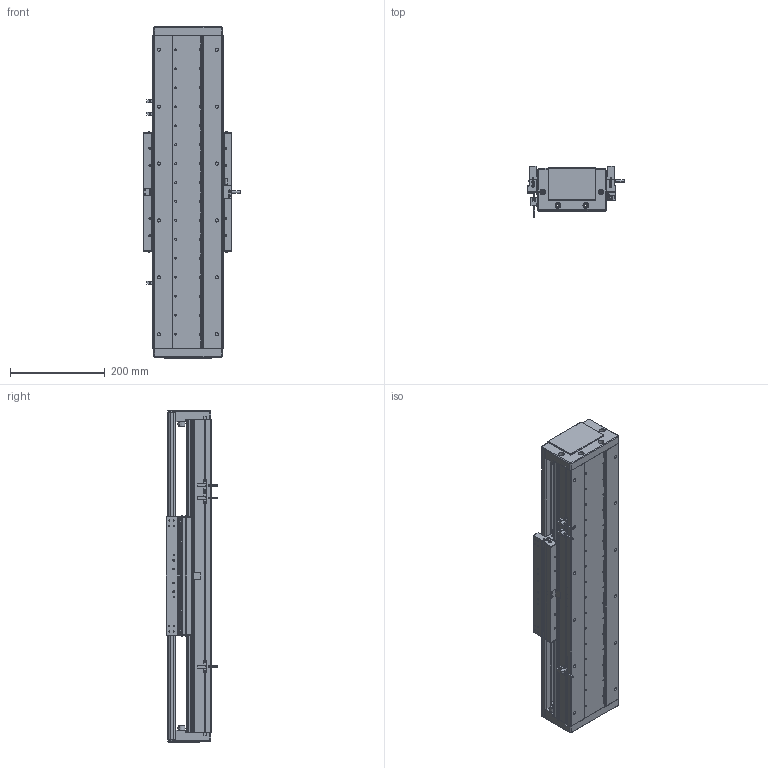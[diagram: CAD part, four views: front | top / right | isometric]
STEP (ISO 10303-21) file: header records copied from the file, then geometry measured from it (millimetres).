
FILE_DESCRIPTION (( 'STEP AP203' ), '1' );
FILE_NAME ('DA-C145-C3-T360-C010-0.2 眻盄萇儂.STEP', '2025-08-14T01:15:37', ( '' ), ( '' ), 'SwSTEP 2.0', 'SolidWorks 2019', '' );
FILE_SCHEMA (( 'CONFIG_CONTROL_DESIGN' ));
Length unit declared in the file: millimetre
Products named in the file (29): 复件 DA95-HK-GT-00 滑块钢轨^CU145-W-00 一体化滑动台板; TAY01-M8; 葩璃 DA95-HXJ-00 遣喳砎蝶^DA-C145-C3-T-C010-0.2; 复件 DA145-C3-YB-A-00 压板A^CU145-W 滚珠滑台; 复件 半圆头内六角螺钉 M3×6^CU145-W 滚珠滑台; 葩璃 PM-T45^DA-C145-C3-T-C010-0.2; 葩璃 XD-U-02L 棠掑喜^DA-C145-C3-T-C010-0.2; CU145-W 幗紩賑怢; 复件 纯铜油杯 6x6mm^CU145-W 滚珠滑台; IU-CU145-L 菁釱絳寢; 复件 内六角平端紧定螺钉 GB.T77-2000 M5×10^CU145-W 滚珠滑台; 葩璃 CKMA01-W060-TRL^DA-C145-C3-T-C010-0.2; 葩璃 DA145-T-003-00 裔啣^DA-C145-C3-T-C010-0.2; 葩璃 DA145-C3-DP-B-00 菜えB^CU145-W 幗紩賑怢; 葩璃 DMA-010-0.2 黍杅芛^DA-C145-C3-T-C010-0.2; 复件 DA145-GYP-00 光电感应片^DA-C145-C3-T-C010-0.2; 66245-CU145-HT-W-00 賑雄怢啣(3D芞祧)(00); 葩璃 鞠褒情蹟譫 M3^DA-C145-C3-T-C010-0.2; 葩璃 DA145-C3-DP-A-00 菜えA^CU145-W 幗紩賑怢; IU-CU145-L-00 菁釱(L660); CU145-W-00 珨极趙賑雄怢啣; 葩璃 DA145-DG-H-N-00 傷裔^DA-C145-C3-T-C010-0.2; 葩璃 DA95-GT-T-00^IU-CU145-L 菁釱絳寢; 复件 DA145-C3-YB-B-00 压板B^CU145-W 滚珠滑台; 葩璃 CKM03-W060-C1C2-TP-0.2^DA-C145-C3-T-C010-0.2; 复件 DA95-MFP-01 密封片^CU145-W 滚珠滑台; 复件 DA95-DB-00  挡板^CU145-W 滚珠滑台; DA-C145-C3-T360-C010-0.2 眻盄萇儂; 复件 DA145-C3-DK-00 挡块^CU145-W 滚珠滑台
Assembly tree (98 placements, depth 4):
  DA-C145-C3-T360-C010-0.2 眻盄萇儂
    IU-CU145-L 菁釱絳寢
      IU-CU145-L-00 菁釱(L660)
      葩璃 DA95-GT-T-00^IU-CU145-L 菁釱絳寢  x4
    CU145-W 幗紩賑怢
      CU145-W-00 珨极趙賑雄怢啣
        66245-CU145-HT-W-00 賑雄怢啣(3D芞祧)(00)
        复件 DA95-HK-GT-00 滑块钢轨^CU145-W-00 一体化滑动台板  x8
      复件 DA95-MFP-01 密封片^CU145-W 滚珠滑台  x8
      复件 DA95-DB-00  挡板^CU145-W 滚珠滑台  x8
      复件 内六角平端紧定螺钉 GB.T77-2000 M5×10^CU145-W 滚珠滑台  x4
      复件 纯铜油杯 6x6mm^CU145-W 滚珠滑台  x4
      复件 半圆头内六角螺钉 M3×6^CU145-W 滚珠滑台  x16
      复件 DA145-C3-DK-00 挡块^CU145-W 滚珠滑台  x4
      葩璃 DA145-C3-DP-B-00 菜えB^CU145-W 幗紩賑怢  x2
      复件 DA145-C3-YB-B-00 压板B^CU145-W 滚珠滑台  x2
      葩璃 DA145-C3-DP-A-00 菜えA^CU145-W 幗紩賑怢  x3
      复件 DA145-C3-YB-A-00 压板A^CU145-W 滚珠滑台  x3
      TAY01-M8  x4
    葩璃 CKMA01-W060-TRL^DA-C145-C3-T-C010-0.2
    葩璃 PM-T45^DA-C145-C3-T-C010-0.2  x3
    葩璃 XD-U-02L 棠掑喜^DA-C145-C3-T-C010-0.2
    葩璃 DA145-DG-H-N-00 傷裔^DA-C145-C3-T-C010-0.2  x2
    葩璃 DA145-T-003-00 裔啣^DA-C145-C3-T-C010-0.2
    葩璃 DA95-HXJ-00 遣喳砎蝶^DA-C145-C3-T-C010-0.2  x4
    复件 DA145-GYP-00 光电感应片^DA-C145-C3-T-C010-0.2
    葩璃 DMA-010-0.2 黍杅芛^DA-C145-C3-T-C010-0.2
    葩璃 CKM03-W060-C1C2-TP-0.2^DA-C145-C3-T-C010-0.2
    葩璃 鞠褒情蹟譫 M3^DA-C145-C3-T-C010-0.2  x8
Bounding box: 203.5 x 108.45 x 700 mm (x, y, z)
Volume: 5375026.4 mm3; surface area: 1488528.9 mm2
Topology: 95 solids, 127 shells, 3816 faces, 9939 edges, 6104 vertices
Faces by surface type: plane 1569, cylinder 1531, cone 626, torus 86, sphere 4
Entity records: 82421 total; most frequent: CARTESIAN_POINT 19272, DIRECTION 12409, ORIENTED_EDGE 11876, EDGE_CURVE 5938, AXIS2_PLACEMENT_3D 4602, VERTEX_POINT 3793, VECTOR 3205, LINE 3205
